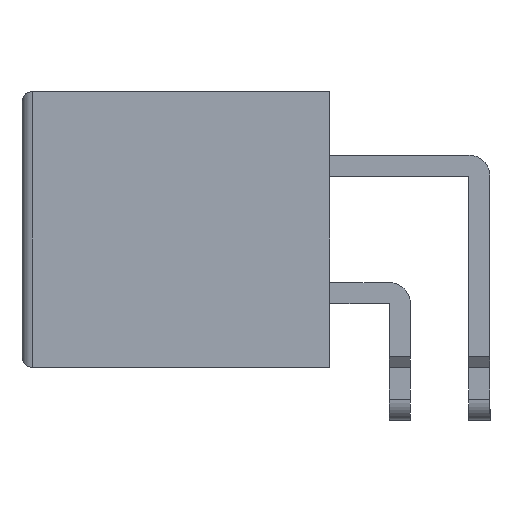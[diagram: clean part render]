
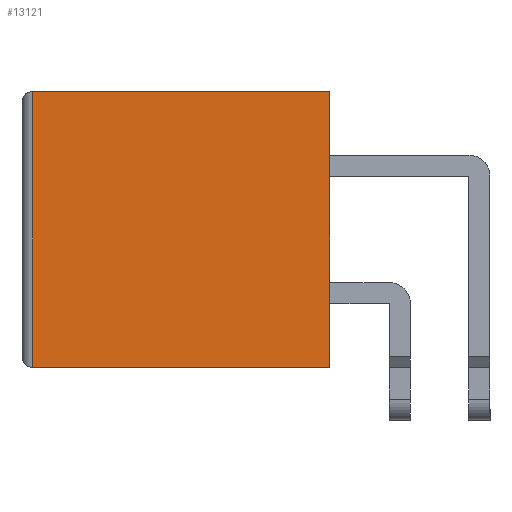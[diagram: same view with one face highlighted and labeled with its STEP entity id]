
A CAD part, left-side view. The second image highlights one B-rep face of the part: STEP entity #13121.
In plain terms, the highlighted planar face has unit normal (-1, 0, 0).
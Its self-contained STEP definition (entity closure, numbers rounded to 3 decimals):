
#2199=VERTEX_POINT('',#21483);
#2200=VERTEX_POINT('',#21487);
#2204=VERTEX_POINT('',#21499);
#2205=VERTEX_POINT('',#21505);
#3502=VECTOR('',#16168,1.);
#3506=VECTOR('',#16179,1.);
#3510=VECTOR('',#16184,1.);
#3511=VECTOR('',#16185,1.);
#4819=LINE('',#21486,#3502);
#4823=LINE('',#21498,#3506);
#4827=LINE('',#21504,#3510);
#4828=LINE('',#21506,#3511);
#6811=EDGE_CURVE('',#2200,#2199,#4819,.T.);
#6817=EDGE_CURVE('',#2204,#2199,#4823,.T.);
#6821=EDGE_CURVE('',#2200,#2205,#4827,.T.);
#6822=EDGE_CURVE('',#2205,#2204,#4828,.T.);
#10688=ORIENTED_EDGE('',*,*,#6811,.F.);
#10689=ORIENTED_EDGE('',*,*,#6821,.T.);
#10690=ORIENTED_EDGE('',*,*,#6822,.T.);
#10691=ORIENTED_EDGE('',*,*,#6817,.T.);
#11603=EDGE_LOOP('',(#10688,#10689,#10690,#10691));
#12387=FACE_BOUND('',#11603,.T.);
#13121=ADVANCED_FACE('',(#12387),#21942,.F.);
#13846=AXIS2_PLACEMENT_3D('',#21503,#16183,$);
#16168=DIRECTION('',(0.,0.,1.));
#16179=DIRECTION('',(0.,1.,0.));
#16183=DIRECTION('',(1.,0.,0.));
#16184=DIRECTION('',(0.,-1.,0.));
#16185=DIRECTION('',(0.,0.,1.));
#21483=CARTESIAN_POINT('',(0.,28.,0.));
#21486=CARTESIAN_POINT('',(0.,28.,-13.));
#21487=CARTESIAN_POINT('',(0.,28.,-26.));
#21498=CARTESIAN_POINT('',(0.,0.,0.));
#21499=CARTESIAN_POINT('',(0.,0.,0.));
#21503=CARTESIAN_POINT('',(0.,14.5,-13.));
#21504=CARTESIAN_POINT('',(0.,29.,-26.));
#21505=CARTESIAN_POINT('',(0.,0.,-26.));
#21506=CARTESIAN_POINT('',(0.,0.,-26.));
#21942=PLANE('',#13846);
